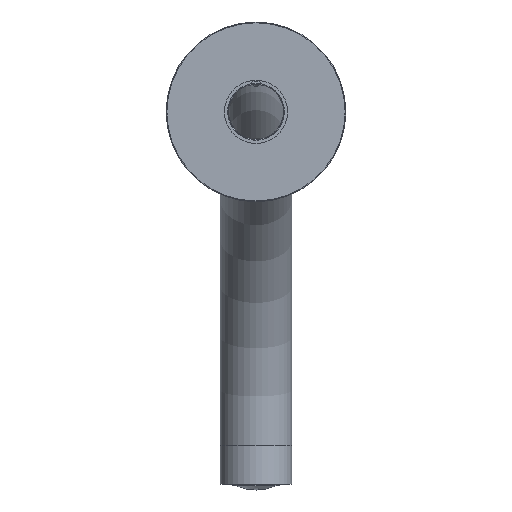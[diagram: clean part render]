
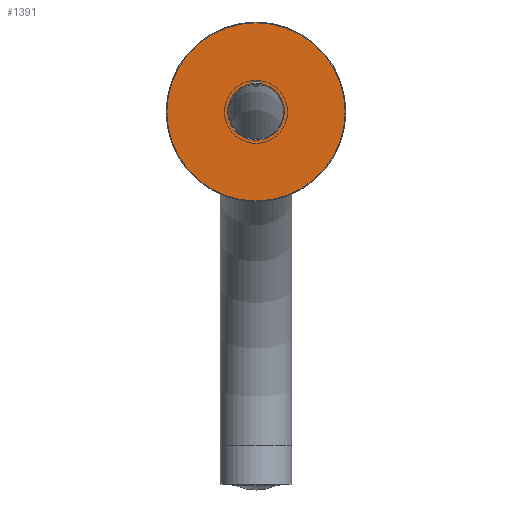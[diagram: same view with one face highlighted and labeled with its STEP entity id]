
A CAD part, left-side view. The second image highlights one B-rep face of the part: STEP entity #1391.
In plain terms, the highlighted planar face has unit normal (-1, 0, 0) as drawn and (1, 0, 0) by its records, which use the part's own axes.
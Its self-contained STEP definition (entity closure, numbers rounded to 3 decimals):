
#370=ORIENTED_EDGE('',*,*,#687,.T.);
#371=ORIENTED_EDGE('',*,*,#684,.T.);
#372=ORIENTED_EDGE('',*,*,#686,.T.);
#684=EDGE_CURVE('',#853,#852,#969,.F.);
#686=EDGE_CURVE('',#852,#853,#970,.T.);
#687=EDGE_CURVE('',#854,#854,#971,.T.);
#852=VERTEX_POINT('',#3388);
#853=VERTEX_POINT('',#3390);
#854=VERTEX_POINT('',#3399);
#969=CIRCLE('',#2017,11.05);
#970=CIRCLE('',#2019,3.);
#971=CIRCLE('',#2021,34.7);
#1068=EDGE_LOOP('',(#370));
#1069=EDGE_LOOP('',(#371,#372));
#1209=FACE_BOUND('',#1068,.T.);
#1210=FACE_BOUND('',#1069,.T.);
#1333=PLANE('',#2020);
#1391=ADVANCED_FACE('',(#1209,#1210),#1333,.T.);
#2017=AXIS2_PLACEMENT_3D('',#3389,#2251,#2252);
#2019=AXIS2_PLACEMENT_3D('',#3396,#2255,#2256);
#2020=AXIS2_PLACEMENT_3D('',#3397,#2257,#2258);
#2021=AXIS2_PLACEMENT_3D('',#3398,#2259,#2260);
#2251=DIRECTION('',(1.,0.,0.));
#2252=DIRECTION('',(0.,0.,-1.));
#2255=DIRECTION('',(-1.,0.,0.));
#2256=DIRECTION('',(0.,-0.804,0.594));
#2257=DIRECTION('',(1.,0.,0.));
#2258=DIRECTION('',(0.,0.,-1.));
#2259=DIRECTION('',(1.,0.,0.));
#2260=DIRECTION('',(0.,0.,-1.));
#3388=CARTESIAN_POINT('',(4.,-2.412,10.783));
#3389=CARTESIAN_POINT('',(4.,0.,0.));
#3390=CARTESIAN_POINT('',(4.,2.412,10.783));
#3396=CARTESIAN_POINT('',(4.,0.,9.));
#3397=CARTESIAN_POINT('',(4.,0.,0.));
#3398=CARTESIAN_POINT('',(4.,0.,0.));
#3399=CARTESIAN_POINT('',(4.,0.,-34.7));
